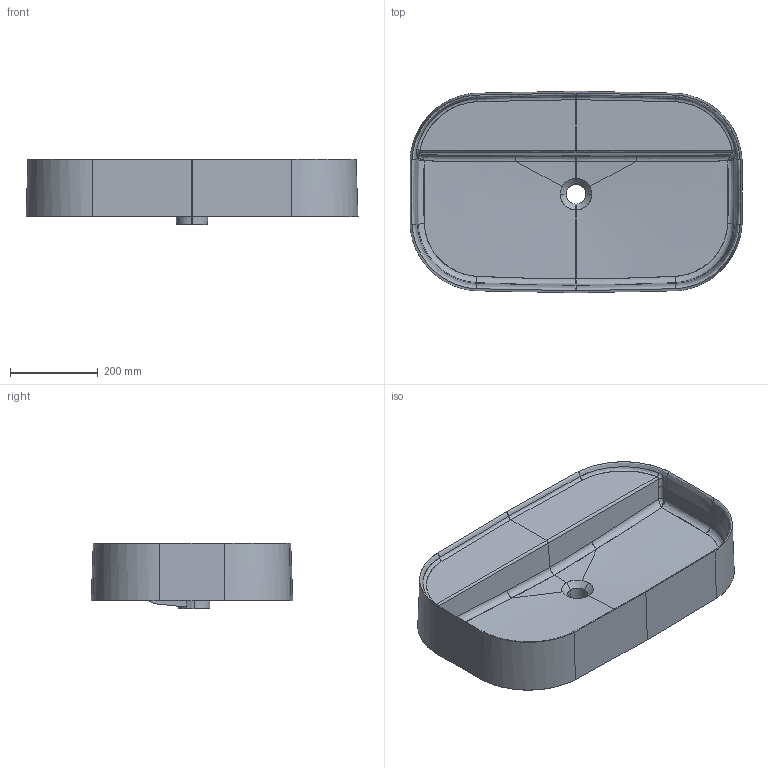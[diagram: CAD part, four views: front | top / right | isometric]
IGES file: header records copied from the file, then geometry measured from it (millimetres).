
Start section: START RECORD GO HERE.
Global section: file name: funz lavabo 75x45 h13 tondo.igs; native system: DASSAULT SYSTEMES CATIA V5 R19 - www.3ds.com; preprocessor: CATIA Version 5 Release 19 SP 5 ; author: Luca; organization: Luca-PC; date: 20161130.171505; units: millimetre
Bounding box: 755.21 x 458.32 x 148.37 mm (x, y, z)
Surface area: 1211656.5 mm2 (no closed solid volume)
Topology: 0 solids, 0 shells, 114 faces, 554 edges, 552 vertices
Faces by surface type: bspline 114
